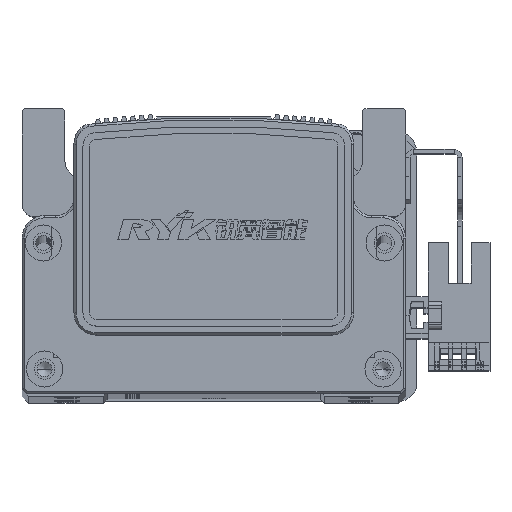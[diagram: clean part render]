
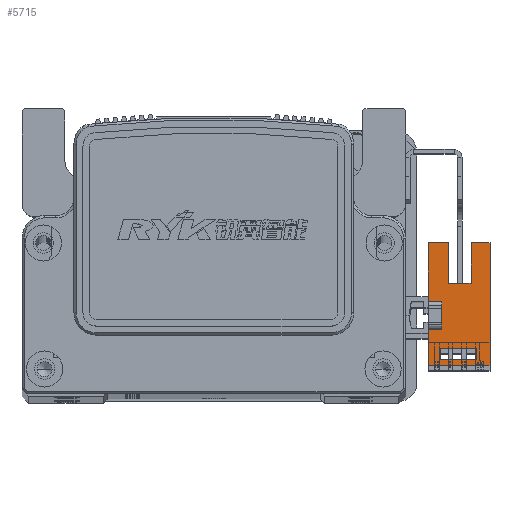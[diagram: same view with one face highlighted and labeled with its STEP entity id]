
A CAD part, top view. The second image highlights one B-rep face of the part: STEP entity #5715.
In plain terms, the highlighted planar face has unit normal (0, 0, 1) as drawn and (1, 0, 0) by its records, which use the part's own axes.
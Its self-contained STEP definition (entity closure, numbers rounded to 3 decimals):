
#2346 = LINE ( 'NONE', #9915, #2399 ) ;
#2361 = LINE ( 'NONE', #9946, #2380 ) ;
#2380 = VECTOR ( 'NONE', #9929, 1000. ) ;
#2399 = VECTOR ( 'NONE', #9920, 1000. ) ;
#2439 = LINE ( 'NONE', #10021, #2579 ) ;
#2497 = VECTOR ( 'NONE', #10009, 1000. ) ;
#2550 = LINE ( 'NONE', #10011, #2497 ) ;
#2579 = VECTOR ( 'NONE', #10036, 1000. ) ;
#2612 = VECTOR ( 'NONE', #10109, 1000. ) ;
#2623 = VECTOR ( 'NONE', #10079, 1000. ) ;
#2627 = LINE ( 'NONE', #10083, #2662 ) ;
#2629 = VECTOR ( 'NONE', #10048, 1000. ) ;
#2633 = LINE ( 'NONE', #10047, #2629 ) ;
#2643 = LINE ( 'NONE', #10090, #2790 ) ;
#2647 = LINE ( 'NONE', #10078, #2623 ) ;
#2660 = LINE ( 'NONE', #10085, #2612 ) ;
#2662 = VECTOR ( 'NONE', #10094, 1000. ) ;
#2701 = LINE ( 'NONE', #10099, #2703 ) ;
#2703 = VECTOR ( 'NONE', #10116, 1000. ) ;
#2717 = LINE ( 'NONE', #10190, #2812 ) ;
#2723 = LINE ( 'NONE', #10200, #2818 ) ;
#2725 = LINE ( 'NONE', #10171, #2736 ) ;
#2736 = VECTOR ( 'NONE', #10163, 1000. ) ;
#2738 = LINE ( 'NONE', #10124, #2770 ) ;
#2770 = VECTOR ( 'NONE', #10133, 1000. ) ;
#2774 = VECTOR ( 'NONE', #10204, 1000. ) ;
#2790 = VECTOR ( 'NONE', #10098, 1000. ) ;
#2794 = LINE ( 'NONE', #10194, #2774 ) ;
#2802 = VECTOR ( 'NONE', #10127, 1000. ) ;
#2810 = LINE ( 'NONE', #10126, #2802 ) ;
#2812 = VECTOR ( 'NONE', #10173, 1000. ) ;
#2818 = VECTOR ( 'NONE', #10166, 1000. ) ;
#3585 = VERTEX_POINT ( 'NONE', #4874 ) ;
#3643 = VERTEX_POINT ( 'NONE', #4950 ) ;
#3648 = VERTEX_POINT ( 'NONE', #4896 ) ;
#3668 = VERTEX_POINT ( 'NONE', #4929 ) ;
#3707 = VERTEX_POINT ( 'NONE', #4905 ) ;
#3715 = VERTEX_POINT ( 'NONE', #4937 ) ;
#3720 = VERTEX_POINT ( 'NONE', #4927 ) ;
#3729 = VERTEX_POINT ( 'NONE', #4948 ) ;
#3744 = VERTEX_POINT ( 'NONE', #4973 ) ;
#3747 = VERTEX_POINT ( 'NONE', #4997 ) ;
#3775 = VERTEX_POINT ( 'NONE', #4987 ) ;
#3799 = VERTEX_POINT ( 'NONE', #5012 ) ;
#3897 = VERTEX_POINT ( 'NONE', #5025 ) ;
#3917 = VERTEX_POINT ( 'NONE', #5035 ) ;
#3919 = VERTEX_POINT ( 'NONE', #5066 ) ;
#3928 = VERTEX_POINT ( 'NONE', #5039 ) ;
#4874 = CARTESIAN_POINT ( 'NONE',  ( 3.2, 3.1, 3. ) ) ;
#4896 = CARTESIAN_POINT ( 'NONE',  ( 3.2, 16.1, 3. ) ) ;
#4905 = CARTESIAN_POINT ( 'NONE',  ( 3.2, -9.83, -7.7 ) ) ;
#4927 = CARTESIAN_POINT ( 'NONE',  ( 3.2, -11.1, -10.7 ) ) ;
#4929 = CARTESIAN_POINT ( 'NONE',  ( 3.2, -11.1, 3. ) ) ;
#4937 = CARTESIAN_POINT ( 'NONE',  ( 3.2, 16.1, -6.5 ) ) ;
#4948 = CARTESIAN_POINT ( 'NONE',  ( 3.2, -7.33, 0.3 ) ) ;
#4950 = CARTESIAN_POINT ( 'NONE',  ( 3.2, -3.1, 3. ) ) ;
#4973 = CARTESIAN_POINT ( 'NONE',  ( 3.2, 16.1, -10.7 ) ) ;
#4987 = CARTESIAN_POINT ( 'NONE',  ( 3.2, 7.1, -1.5 ) ) ;
#4997 = CARTESIAN_POINT ( 'NONE',  ( 3.2, 7.1, -6.5 ) ) ;
#5012 = CARTESIAN_POINT ( 'NONE',  ( 3.2, -3.1, 0. ) ) ;
#5025 = CARTESIAN_POINT ( 'NONE',  ( 3.2, 3.1, 0. ) ) ;
#5035 = CARTESIAN_POINT ( 'NONE',  ( 3.2, -9.83, 0.3 ) ) ;
#5039 = CARTESIAN_POINT ( 'NONE',  ( 3.2, -7.33, -7.7 ) ) ;
#5066 = CARTESIAN_POINT ( 'NONE',  ( 3.2, 16.1, -1.5 ) ) ;
#5715 = ADVANCED_FACE ( 'NONE', ( #54159, #54191 ), #38031, .T. ) ;
#9915 = CARTESIAN_POINT ( 'NONE',  ( 3.2, 16.1, -10.7 ) ) ;
#9920 = DIRECTION ( 'NONE',  ( 0., 1., 0. ) ) ;
#9929 = DIRECTION ( 'NONE',  ( 0., 1., 0. ) ) ;
#9946 = CARTESIAN_POINT ( 'NONE',  ( 3.2, 16.1, 3. ) ) ;
#10009 = DIRECTION ( 'NONE',  ( 0., 1., 0. ) ) ;
#10011 = CARTESIAN_POINT ( 'NONE',  ( 3.2, 16.1, 3. ) ) ;
#10021 = CARTESIAN_POINT ( 'NONE',  ( 3.2, 16.1, -10.7 ) ) ;
#10036 = DIRECTION ( 'NONE',  ( 0., 0., 1. ) ) ;
#10047 = CARTESIAN_POINT ( 'NONE',  ( 3.2, -11.1, 3. ) ) ;
#10048 = DIRECTION ( 'NONE',  ( 0., 0., 1. ) ) ;
#10078 = CARTESIAN_POINT ( 'NONE',  ( 3.2, 0., 0. ) ) ;
#10079 = DIRECTION ( 'NONE',  ( 0., 1., 0. ) ) ;
#10083 = CARTESIAN_POINT ( 'NONE',  ( 3.2, 16.1, -7.7 ) ) ;
#10085 = CARTESIAN_POINT ( 'NONE',  ( 3.2, -7.33, -10.7 ) ) ;
#10090 = CARTESIAN_POINT ( 'NONE',  ( 3.2, 3.1, 3. ) ) ;
#10094 = DIRECTION ( 'NONE',  ( 0., 1., 0. ) ) ;
#10098 = DIRECTION ( 'NONE',  ( 0., 0., 1. ) ) ;
#10099 = CARTESIAN_POINT ( 'NONE',  ( 3.2, -3.1, 3. ) ) ;
#10109 = DIRECTION ( 'NONE',  ( 0., 0., 1. ) ) ;
#10116 = DIRECTION ( 'NONE',  ( 0., 0., -1. ) ) ;
#10124 = CARTESIAN_POINT ( 'NONE',  ( 3.2, 7.1, -6.5 ) ) ;
#10126 = CARTESIAN_POINT ( 'NONE',  ( 3.2, 16.1, 0.3 ) ) ;
#10127 = DIRECTION ( 'NONE',  ( 0., -1., 0. ) ) ;
#10133 = DIRECTION ( 'NONE',  ( 0., 0., 1. ) ) ;
#10163 = DIRECTION ( 'NONE',  ( 0., -1., 0. ) ) ;
#10166 = DIRECTION ( 'NONE',  ( 0., 0., 1. ) ) ;
#10171 = CARTESIAN_POINT ( 'NONE',  ( 3.2, 25.1, -6.5 ) ) ;
#10173 = DIRECTION ( 'NONE',  ( 0., 1., 0. ) ) ;
#10190 = CARTESIAN_POINT ( 'NONE',  ( 3.2, 25.1, -1.5 ) ) ;
#10194 = CARTESIAN_POINT ( 'NONE',  ( 3.2, -9.83, -10.7 ) ) ;
#10200 = CARTESIAN_POINT ( 'NONE',  ( 3.2, 16.1, -10.7 ) ) ;
#10204 = DIRECTION ( 'NONE',  ( 0., 0., -1. ) ) ;
#32522 = ORIENTED_EDGE ( 'NONE', *, *, #68133, .F. ) ;
#32532 = ORIENTED_EDGE ( 'NONE', *, *, #68207, .F. ) ;
#32536 = ORIENTED_EDGE ( 'NONE', *, *, #68190, .T. ) ;
#32539 = ORIENTED_EDGE ( 'NONE', *, *, #68212, .T. ) ;
#32548 = ORIENTED_EDGE ( 'NONE', *, *, #68182, .F. ) ;
#32550 = ORIENTED_EDGE ( 'NONE', *, *, #68201, .F. ) ;
#32555 = ORIENTED_EDGE ( 'NONE', *, *, #68106, .T. ) ;
#32560 = ORIENTED_EDGE ( 'NONE', *, *, #68164, .F. ) ;
#32565 = ORIENTED_EDGE ( 'NONE', *, *, #68152, .F. ) ;
#32567 = ORIENTED_EDGE ( 'NONE', *, *, #68172, .F. ) ;
#32578 = ORIENTED_EDGE ( 'NONE', *, *, #68213, .T. ) ;
#32581 = ORIENTED_EDGE ( 'NONE', *, *, #68169, .F. ) ;
#32585 = ORIENTED_EDGE ( 'NONE', *, *, #68136, .T. ) ;
#32598 = ORIENTED_EDGE ( 'NONE', *, *, #68209, .T. ) ;
#32619 = ORIENTED_EDGE ( 'NONE', *, *, #68100, .F. ) ;
#32624 = ORIENTED_EDGE ( 'NONE', *, *, #68181, .F. ) ;
#38031 = PLANE ( 'NONE',  #68616 ) ;
#38032 = DIRECTION ( 'NONE',  ( 1., 0., 0. ) ) ;
#38061 = DIRECTION ( 'NONE',  ( 0., 1., 0. ) ) ;
#38079 = CARTESIAN_POINT ( 'NONE',  ( 3.2, 16.1, -10.7 ) ) ;
#39587 = EDGE_LOOP ( 'NONE', ( #32550, #32581, #32567, #32532 ) ) ;
#39615 = EDGE_LOOP ( 'NONE', ( #32578, #32536, #32598, #32539, #32522, #32548, #32560, #32624, #32619, #32565, #32555, #32585 ) ) ;
#54159 = FACE_OUTER_BOUND ( 'NONE', #39615, .T. ) ;
#54191 = FACE_BOUND ( 'NONE', #39587, .T. ) ;
#68100 = EDGE_CURVE ( 'NONE', #3668, #3643, #2361, .T. ) ;
#68106 = EDGE_CURVE ( 'NONE', #3720, #3744, #2346, .T. ) ;
#68133 = EDGE_CURVE ( 'NONE', #3585, #3648, #2550, .T. ) ;
#68136 = EDGE_CURVE ( 'NONE', #3744, #3715, #2439, .T. ) ;
#68152 = EDGE_CURVE ( 'NONE', #3720, #3668, #2633, .T. ) ;
#68164 = EDGE_CURVE ( 'NONE', #3799, #3897, #2647, .T. ) ;
#68169 = EDGE_CURVE ( 'NONE', #3928, #3729, #2660, .T. ) ;
#68172 = EDGE_CURVE ( 'NONE', #3707, #3928, #2627, .T. ) ;
#68181 = EDGE_CURVE ( 'NONE', #3643, #3799, #2701, .T. ) ;
#68182 = EDGE_CURVE ( 'NONE', #3897, #3585, #2643, .T. ) ;
#68190 = EDGE_CURVE ( 'NONE', #3747, #3775, #2738, .T. ) ;
#68201 = EDGE_CURVE ( 'NONE', #3729, #3917, #2810, .T. ) ;
#68207 = EDGE_CURVE ( 'NONE', #3917, #3707, #2794, .T. ) ;
#68209 = EDGE_CURVE ( 'NONE', #3775, #3919, #2717, .T. ) ;
#68212 = EDGE_CURVE ( 'NONE', #3919, #3648, #2723, .T. ) ;
#68213 = EDGE_CURVE ( 'NONE', #3715, #3747, #2725, .T. ) ;
#68616 = AXIS2_PLACEMENT_3D ( 'NONE', #38079, #38032, #38061 ) ;
